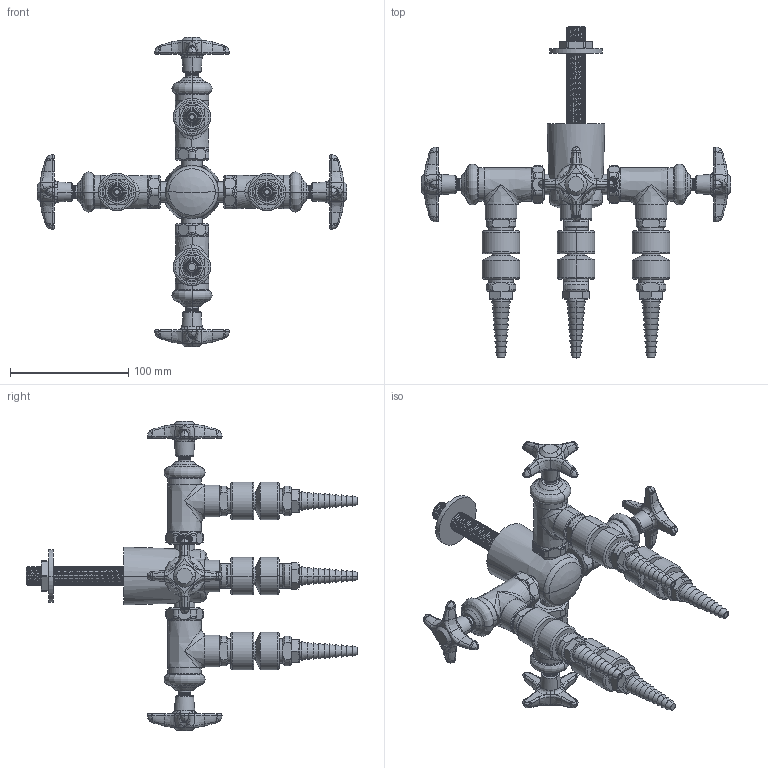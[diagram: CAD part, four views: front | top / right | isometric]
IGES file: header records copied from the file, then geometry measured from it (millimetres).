
Start section:  PTC IGES file: LWV2-C44-40.igs
Global section: file name: LWV2-C44-40.igs; native system: Creo Parametric by PTC Inc.; preprocessor: 2014500; author: usch_engrender; organization: Unknown; date: 20151117.102841; units: inch
Bounding box: 261.52 x 280.82 x 261.52 mm (x, y, z)
Volume: 526986.4 mm3; surface area: 147329.9 mm2
Topology: 1 solids, 8 shells, 2505 faces, 5768 edges, 3398 vertices
Faces by surface type: bspline 1318, revolution 1187
